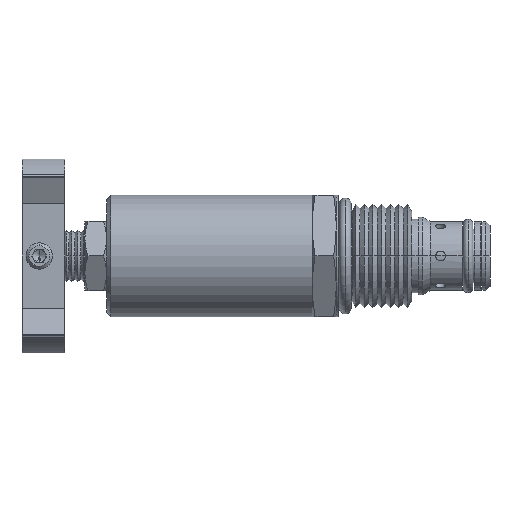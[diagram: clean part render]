
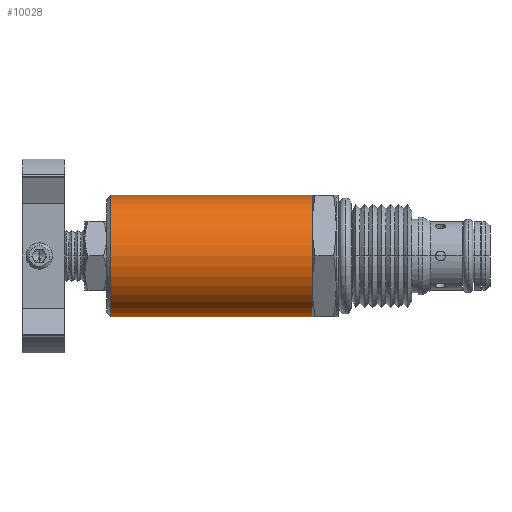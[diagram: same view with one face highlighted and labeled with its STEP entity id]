
A CAD part, front view. The second image highlights one B-rep face of the part: STEP entity #10028.
In plain terms, the highlighted cylindrical face has radius 11.113 mm (diameter 22.225 mm), a partial arc.
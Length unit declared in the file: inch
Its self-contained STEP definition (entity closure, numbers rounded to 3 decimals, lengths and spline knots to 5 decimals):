
#3539=CARTESIAN_POINT('',(-1.642,0.,-0.4375));
#3540=VERTEX_POINT('',#3539);
#3556=CARTESIAN_POINT('',(-1.642,0.,0.4375));
#3557=VERTEX_POINT('',#3556);
#3579=CARTESIAN_POINT('',(-0.187,0.0,-0.4375));
#3580=VERTEX_POINT('',#3579);
#3581=CARTESIAN_POINT('',(-1.642,0.,-0.4375));
#3582=DIRECTION('',(1.0,0.0,0.0));
#3583=VECTOR('',#3582,1.455);
#3584=LINE('',#3581,#3583);
#3585=EDGE_CURVE('',#3540,#3580,#3584,.T.);
#3588=CARTESIAN_POINT('',(-0.187,0.0,0.4375));
#3589=VERTEX_POINT('',#3588);
#3590=CARTESIAN_POINT('',(-0.187,0.0,0.4375));
#3591=DIRECTION('',(-1.0,0.0,0.0));
#3592=VECTOR('',#3591,1.455);
#3593=LINE('',#3590,#3592);
#3594=EDGE_CURVE('',#3589,#3557,#3593,.T.);
#9698=CARTESIAN_POINT('',(-0.187,-0.37889,0.21875));
#9699=VERTEX_POINT('',#9698);
#9726=CARTESIAN_POINT('',(-0.187,0.0,0.));
#9727=DIRECTION('',(1.0,0.0,0.0));
#9728=DIRECTION('',(0.0,0.0,-1.0));
#9729=AXIS2_PLACEMENT_3D('',#9726,#9727,#9728);
#9730=CIRCLE('',#9729,0.4375);
#9731=EDGE_CURVE('',#3589,#9699,#9730,.T.);
#9756=CARTESIAN_POINT('',(-0.187,-0.37889,-0.21875));
#9757=VERTEX_POINT('',#9756);
#9758=CARTESIAN_POINT('',(-0.187,0.0,0.));
#9759=DIRECTION('',(1.0,0.0,0.0));
#9760=DIRECTION('',(0.0,0.0,-1.0));
#9761=AXIS2_PLACEMENT_3D('',#9758,#9759,#9760);
#9762=CIRCLE('',#9761,0.4375);
#9763=EDGE_CURVE('',#9699,#9757,#9762,.T.);
#9801=CARTESIAN_POINT('',(-0.187,0.0,0.));
#9802=DIRECTION('',(1.0,0.0,0.0));
#9803=DIRECTION('',(0.0,0.0,-1.0));
#9804=AXIS2_PLACEMENT_3D('',#9801,#9802,#9803);
#9805=CIRCLE('',#9804,0.4375);
#9806=EDGE_CURVE('',#9757,#3580,#9805,.T.);
#10009=CARTESIAN_POINT('',(-0.9145,0.0,0.));
#10010=DIRECTION('',(1.0,0.,0.));
#10011=DIRECTION('',(0.0,0.0,-1.0));
#10012=AXIS2_PLACEMENT_3D('',#10009,#10010,#10011);
#10013=CYLINDRICAL_SURFACE('',#10012,0.4375);
#10014=ORIENTED_EDGE('',*,*,#3585,.T.);
#10015=ORIENTED_EDGE('',*,*,#9806,.F.);
#10016=ORIENTED_EDGE('',*,*,#9763,.F.);
#10017=ORIENTED_EDGE('',*,*,#9731,.F.);
#10018=ORIENTED_EDGE('',*,*,#3594,.T.);
#10019=CARTESIAN_POINT('',(-1.642,0.,0.));
#10020=DIRECTION('',(1.0,0.0,0.0));
#10021=DIRECTION('',(0.0,0.0,-1.0));
#10022=AXIS2_PLACEMENT_3D('',#10019,#10020,#10021);
#10023=CIRCLE('',#10022,0.4375);
#10024=EDGE_CURVE('',#3557,#3540,#10023,.T.);
#10025=ORIENTED_EDGE('',*,*,#10024,.T.);
#10026=EDGE_LOOP('',(#10014,#10015,#10016,#10017,#10018,#10025));
#10027=FACE_OUTER_BOUND('',#10026,.T.);
#10028=ADVANCED_FACE('',(#10027),#10013,.T.);
